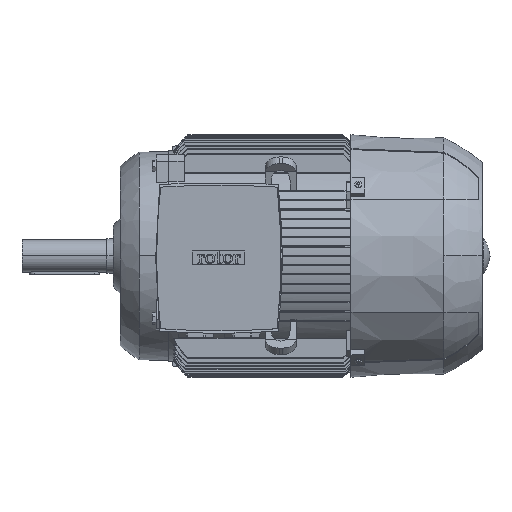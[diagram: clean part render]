
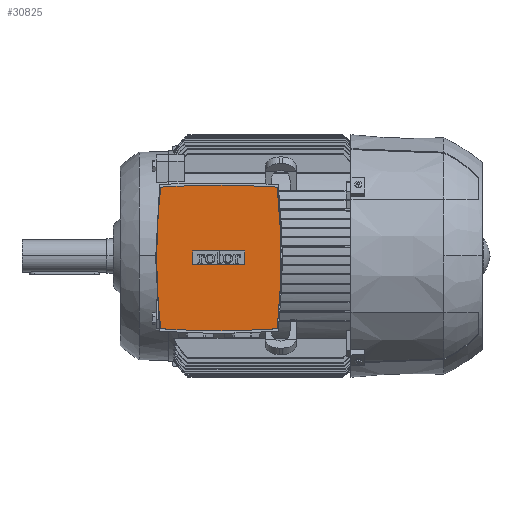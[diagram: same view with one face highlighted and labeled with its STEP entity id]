
A CAD part, top view. The second image highlights one B-rep face of the part: STEP entity #30825.
In plain terms, the highlighted planar face has unit normal (0, 0, 1).
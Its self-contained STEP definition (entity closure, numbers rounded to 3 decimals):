
#1379 = ORIENTED_EDGE ( 'NONE', *, *, #46377, .T. ) ;
#2233 = EDGE_LOOP ( 'NONE', ( #1379, #36324, #44998, #22861 ) ) ;
#4736 = CARTESIAN_POINT ( 'NONE',  ( -690.5, -3., 265. ) ) ;
#5813 = EDGE_LOOP ( 'NONE', ( #9051, #62333, #5865, #45329, #15227 ) ) ;
#5865 = ORIENTED_EDGE ( 'NONE', *, *, #44436, .F. ) ;
#7208 = DIRECTION ( 'NONE',  ( 0., 0., -1. ) ) ;
#9051 = ORIENTED_EDGE ( 'NONE', *, *, #55422, .F. ) ;
#9174 = EDGE_CURVE ( 'NONE', #62796, #20874, #48914, .T. ) ;
#9830 = DIRECTION ( 'NONE',  ( -1., 0., 0. ) ) ;
#9899 = VECTOR ( 'NONE', #35746, 1000. ) ;
#10355 = CIRCLE ( 'NONE', #65044, 836. ) ;
#11106 = LINE ( 'NONE', #37122, #23032 ) ;
#11232 = CARTESIAN_POINT ( 'NONE',  ( 820.5, -3., 265. ) ) ;
#15227 = ORIENTED_EDGE ( 'NONE', *, *, #17895, .F. ) ;
#16133 = EDGE_CURVE ( 'NONE', #21978, #57075, #56977, .T. ) ;
#16356 = DIRECTION ( 'NONE',  ( -1., 0., 0. ) ) ;
#17895 = EDGE_CURVE ( 'NONE', #25778, #62796, #10355, .T. ) ;
#17992 = EDGE_CURVE ( 'NONE', #21129, #32230, #11106, .T. ) ;
#18636 = DIRECTION ( 'NONE',  ( 0., 0., 1. ) ) ;
#20697 = DIRECTION ( 'NONE',  ( 0., 0., -1. ) ) ;
#20874 = VERTEX_POINT ( 'NONE', #27140 ) ;
#21129 = VERTEX_POINT ( 'NONE', #35197 ) ;
#21938 = DIRECTION ( 'NONE',  ( 0., 0., -1. ) ) ;
#21978 = VERTEX_POINT ( 'NONE', #30875 ) ;
#22694 = AXIS2_PLACEMENT_3D ( 'NONE', #52253, #21938, #57362 ) ;
#22861 = ORIENTED_EDGE ( 'NONE', *, *, #17992, .T. ) ;
#23032 = VECTOR ( 'NONE', #42245, 1000. ) ;
#23048 = FACE_BOUND ( 'NONE', #2233, .T. ) ;
#23834 = CARTESIAN_POINT ( 'NONE',  ( 140.455, 88.704, 265. ) ) ;
#24361 = CARTESIAN_POINT ( 'NONE',  ( -10.455, -94.704, 265. ) ) ;
#25778 = VERTEX_POINT ( 'NONE', #24361 ) ;
#25863 = CARTESIAN_POINT ( 'NONE',  ( 65., -12.05, 265. ) ) ;
#27140 = CARTESIAN_POINT ( 'NONE',  ( -10.455, 88.704, 265. ) ) ;
#28925 = CIRCLE ( 'NONE', #50698, 1019.7 ) ;
#30690 = CARTESIAN_POINT ( 'NONE',  ( 65., 6.05, 265. ) ) ;
#30825 = ADVANCED_FACE ( 'NONE', ( #23048, #36443 ), #58970, .T. ) ;
#30875 = CARTESIAN_POINT ( 'NONE',  ( 31.25, -12.05, 265. ) ) ;
#30881 = CIRCLE ( 'NONE', #32405, 836. ) ;
#31237 = AXIS2_PLACEMENT_3D ( 'NONE', #48952, #18636, #54063 ) ;
#32230 = VERTEX_POINT ( 'NONE', #46283 ) ;
#32405 = AXIS2_PLACEMENT_3D ( 'NONE', #4736, #40131, #9830 ) ;
#33392 = CARTESIAN_POINT ( 'NONE',  ( -15.5, -3., 265. ) ) ;
#34289 = DIRECTION ( 'NONE',  ( 0., 1., 0. ) ) ;
#34919 = EDGE_CURVE ( 'NONE', #41493, #49888, #30881, .T. ) ;
#35197 = CARTESIAN_POINT ( 'NONE',  ( 98.75, 6.05, 265. ) ) ;
#35746 = DIRECTION ( 'NONE',  ( 1., 0., 0. ) ) ;
#36324 = ORIENTED_EDGE ( 'NONE', *, *, #16133, .T. ) ;
#36443 = FACE_OUTER_BOUND ( 'NONE', #5813, .T. ) ;
#36684 = CARTESIAN_POINT ( 'NONE',  ( 31.25, 6.05, 265. ) ) ;
#37122 = CARTESIAN_POINT ( 'NONE',  ( 98.75, -3., 265. ) ) ;
#37510 = CARTESIAN_POINT ( 'NONE',  ( 820.5, -3., 265. ) ) ;
#40131 = DIRECTION ( 'NONE',  ( 0., 0., -1. ) ) ;
#41110 = DIRECTION ( 'NONE',  ( -1., 0., 0. ) ) ;
#41493 = VERTEX_POINT ( 'NONE', #23834 ) ;
#42245 = DIRECTION ( 'NONE',  ( 0., -1., 0. ) ) ;
#42617 = DIRECTION ( 'NONE',  ( -1., 0., 0. ) ) ;
#44076 = EDGE_CURVE ( 'NONE', #57075, #21129, #63870, .T. ) ;
#44275 = LINE ( 'NONE', #25863, #56176 ) ;
#44436 = EDGE_CURVE ( 'NONE', #20874, #41493, #28925, .T. ) ;
#44998 = ORIENTED_EDGE ( 'NONE', *, *, #44076, .T. ) ;
#45329 = ORIENTED_EDGE ( 'NONE', *, *, #9174, .F. ) ;
#46283 = CARTESIAN_POINT ( 'NONE',  ( 98.75, -12.05, 265. ) ) ;
#46377 = EDGE_CURVE ( 'NONE', #32230, #21978, #44275, .T. ) ;
#46666 = DIRECTION ( 'NONE',  ( 0., 0., -1. ) ) ;
#48914 = CIRCLE ( 'NONE', #59616, 836. ) ;
#48952 = CARTESIAN_POINT ( 'NONE',  ( 65., -3., 265. ) ) ;
#49789 = CIRCLE ( 'NONE', #22694, 1019.7 ) ;
#49888 = VERTEX_POINT ( 'NONE', #63231 ) ;
#50698 = AXIS2_PLACEMENT_3D ( 'NONE', #51011, #20697, #56124 ) ;
#51011 = CARTESIAN_POINT ( 'NONE',  ( 65., -928.2, 265. ) ) ;
#52253 = CARTESIAN_POINT ( 'NONE',  ( 65., 922.2, 265. ) ) ;
#54063 = DIRECTION ( 'NONE',  ( 1., 0., 0. ) ) ;
#55375 = VECTOR ( 'NONE', #34289, 1000. ) ;
#55422 = EDGE_CURVE ( 'NONE', #49888, #25778, #49789, .T. ) ;
#56124 = DIRECTION ( 'NONE',  ( -1., 0., 0. ) ) ;
#56176 = VECTOR ( 'NONE', #41110, 1000. ) ;
#56977 = LINE ( 'NONE', #64756, #55375 ) ;
#57075 = VERTEX_POINT ( 'NONE', #36684 ) ;
#57362 = DIRECTION ( 'NONE',  ( -1., 0., 0. ) ) ;
#58970 = PLANE ( 'NONE',  #31237 ) ;
#59616 = AXIS2_PLACEMENT_3D ( 'NONE', #37510, #7208, #42617 ) ;
#62333 = ORIENTED_EDGE ( 'NONE', *, *, #34919, .F. ) ;
#62796 = VERTEX_POINT ( 'NONE', #33392 ) ;
#63231 = CARTESIAN_POINT ( 'NONE',  ( 140.455, -94.704, 265. ) ) ;
#63870 = LINE ( 'NONE', #30690, #9899 ) ;
#64756 = CARTESIAN_POINT ( 'NONE',  ( 31.25, -3., 265. ) ) ;
#65044 = AXIS2_PLACEMENT_3D ( 'NONE', #11232, #46666, #16356 ) ;
